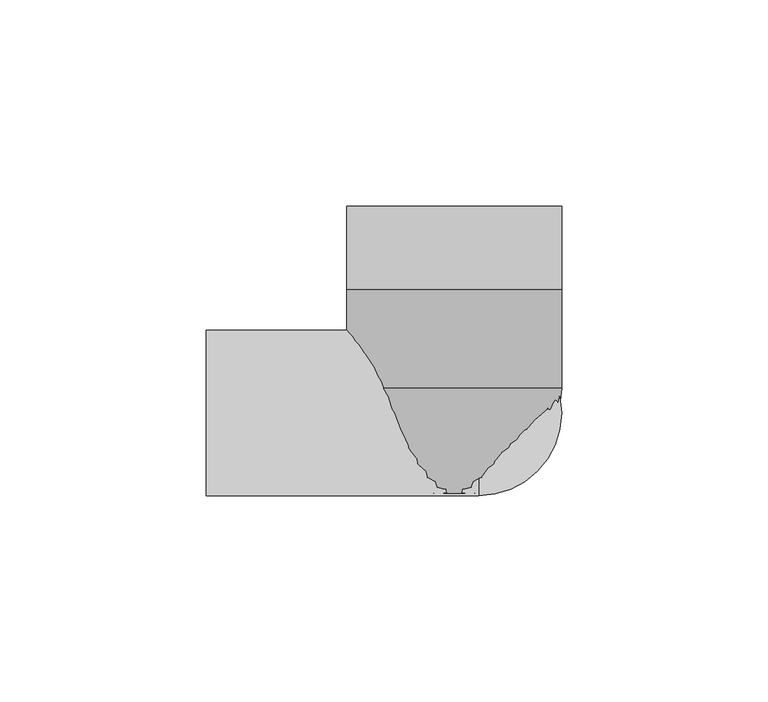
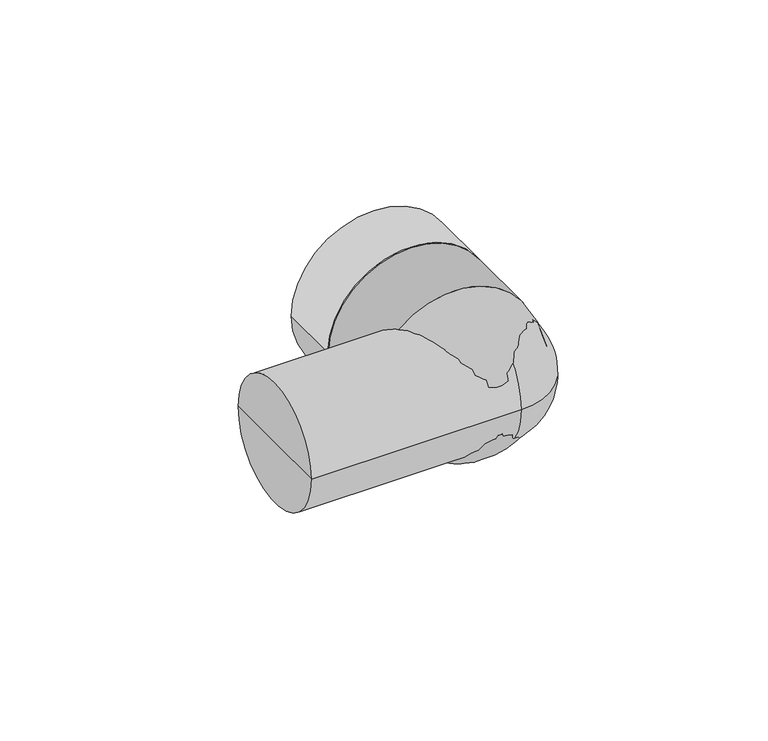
"""IFC4 building model written with IfcOpenShell, lengths in millimetres: pipe fitting geometry, NLRS_52_PIF_UN_PE aansluitbocht 90° voor manchet_geb : DN40-56-58 / ø40-56-58."""

from ifc_helpers import new_model, si_unit, point, frame, origin, origin_2d, place, context, project, spatial, circle_curve, ellipse_curve, trimmed, segment, composite_curve, outline, extrude, source, transform, mapped, element, save
from ifc_brep_helpers import plane_surface, cylinder_surface, revolved_surface, advanced_brep


def pipe_fitting_511397ee(model_context):
    return source(origin(), model_context, "Body", "SolidModel", [
        extrude(outline(composite_curve([segment(trimmed(circle_curve(origin_2d(), 26.0), [point((0.0, 26.0))], [point((0.0, -26.0))], False, "CARTESIAN"), True, "CONTINUOUS"), segment(trimmed(circle_curve(origin_2d(), 26.0), [point((0.0, -26.0))], [point((0.0, 26.0))], False, "CARTESIAN"), True, "CONTINUOUS")], self_intersect=False)), frame((0.0, 30.0, 0.0), z_axis=(0.0, 1.0, 0.0), x_axis=(0.0, 0.0, 1.0)), (0.0, 0.0, 1.0), 20.0),
        advanced_brep(
        [(6.0, 20.0, 0.0), (6.0, -20.0, 0.0), (-60.0, -20.0, 0.0), (-60.0, 20.0, 0.0), (26.0, 0.0, 0.0), (-60.0, 0.0, 0.0)],
        [
            (0, 1, circle_curve(frame((6.0, 0.0, 0.0), z_axis=(-1.0, 0.0, 0.0), x_axis=(0.0, -1.0, 0.0)), 20.0)),
            (1, 2),
            (2, 3, circle_curve(frame((-60.0, 0.0, 0.0), z_axis=(1.0, 0.0, 0.0), x_axis=(0.0, -1.0, 0.0)), 20.0)),
            (3, 0),
            (1, 0, circle_curve(frame((6.0, 0.0, 0.0), z_axis=(-1.0, 0.0, 0.0), x_axis=(0.0, -1.0, 0.0)), 20.0)),
            (3, 2, circle_curve(frame((-60.0, 0.0, 0.0), z_axis=(1.0, 0.0, 0.0), x_axis=(0.0, -1.0, 0.0)), 20.0)),
            (4, 1, circle_curve(frame((6.0, 0.0, 0.0), z_axis=(0.0, 0.0, -1.0), x_axis=(1.0, 0.0, 0.0)), 20.0)),
            (0, 4, circle_curve(frame((6.0, 0.0, 0.0), z_axis=(0.0, 0.0, -1.0), x_axis=(1.0, 0.0, 0.0)), 20.0)),
            (2, 5),
            (5, 3),
        ],
        [
            cylinder_surface(frame((-58.6370196, 0.0, 0.0), z_axis=(1.0, 0.0, 0.0), x_axis=(0.0, -1.0, 0.0)), 20.0),
            revolved_surface(trimmed(ellipse_curve(frame((6.0, 0.0, 0.0), z_axis=(0.0, 0.0, 1.0), x_axis=(1.0, 0.0, 0.0)), 20.0, 20.0), [point((6.0, -20.0, 0.0))], [point((26.0, 0.0, 0.0))], True, "CARTESIAN"), (-58.6370196, 0.0, 0.0), (1.0, 0.0, 0.0)),
            plane_surface(frame((-60.0, 0.0, 0.0), z_axis=(-1.0, 0.0, 0.0), x_axis=(0.0, -1.0, 0.0))),
        ],
        [
            (0, [[1, 2, 3, 4]]),
            (0, [[5, -4, 6, -2]]),
            (1, [[7, -1, 8]]),
            (1, [[-8, -5, -7]]),
            (2, [[-3, 9, 10]]),
            (2, [[-6, -10, -9]]),
        ],
    ),
        advanced_brep(
        [(0.0, 30.0, 0.0), (26.0, 30.0, 0.0), (-26.0, 30.0, 0.0), (-26.0, 6.0, 0.0), (26.0, 6.0, 0.0), (0.0, -20.0, 0.0)],
        [
            (0, 1),
            (1, 2, circle_curve(frame((0.0, 30.0, 0.0), z_axis=(0.0, 1.0, 0.0), x_axis=(1.0, 0.0, 0.0)), 26.0)),
            (2, 0),
            (2, 1, circle_curve(frame((0.0, 30.0, 0.0), z_axis=(0.0, 1.0, 0.0), x_axis=(1.0, 0.0, 0.0)), 26.0)),
            (3, 4, circle_curve(frame((0.0, 6.0, 0.0), z_axis=(0.0, -1.0, 0.0), x_axis=(1.0, 0.0, 0.0)), 26.0)),
            (4, 5, circle_curve(frame((0.0, 6.0, 0.0), z_axis=(0.0, 0.0, -1.0), x_axis=(0.0, 1.0, 0.0)), 26.0)),
            (5, 3, circle_curve(frame((0.0, 6.0, 0.0), z_axis=(0.0, 0.0, -1.0), x_axis=(0.0, 1.0, 0.0)), 26.0)),
            (4, 3, circle_curve(frame((0.0, 6.0, 0.0), z_axis=(0.0, -1.0, 0.0), x_axis=(1.0, 0.0, 0.0)), 26.0)),
            (1, 4),
            (3, 2),
        ],
        [
            plane_surface(frame((0.0, 30.0, 0.0), z_axis=(0.0, 1.0, 0.0), x_axis=(1.0, 0.0, 0.0))),
            revolved_surface(trimmed(ellipse_curve(frame((0.0, 6.0, 0.0), z_axis=(0.0, 0.0, 1.0), x_axis=(0.0, 1.0, 0.0)), 26.0, 26.0), [point((0.0, -20.0, 0.0))], [point((26.0, 6.0, 0.0))], True, "CARTESIAN"), (0.0, 80.0, 0.0), (0.0, 1.0, 0.0)),
            cylinder_surface(frame((0.0, 80.0, 0.0), z_axis=(0.0, 1.0, 0.0), x_axis=(1.0, 0.0, 0.0)), 26.0),
        ],
        [
            (0, [[1, 2, 3]]),
            (0, [[-3, 4, -1]]),
            (1, [[5, 6, 7]]),
            (1, [[8, -7, -6]]),
            (2, [[-2, 9, -5, 10]]),
            (2, [[-4, -10, -8, -9]]),
        ],
    ),
    ])


if __name__ == "__main__":
    model = new_model("IFC4")
    model_context = context("Model", 3, world=origin())
    ifc_project = project(units=[si_unit("LENGTHUNIT", "METRE", prefix="MILLI")], contexts=[model_context])
    site = spatial("IfcSite", under=ifc_project)
    building = spatial("IfcBuilding", under=site)
    placement = place(None, origin())
    pipe_fitting_shape = pipe_fitting_511397ee(model_context)
    element("IfcPipeFitting", 1, ObjectType="NLRS_52_PIF_UN_PE aansluitbocht 90° voor manchet_geb : DN40-56-58 / ø40-56-58", at=placement, inside=building, context=model_context, shape_type="MappedRepresentation", body=[
        mapped(pipe_fitting_shape, transform((0.0, 0.0, 0.0), x_axis=(1.0, 0.0, 0.0), y_axis=(0.0, 1.0, 0.0), z_axis=(0.0, 0.0, 1.0))),
    ])
    save(model, "model.ifc")
